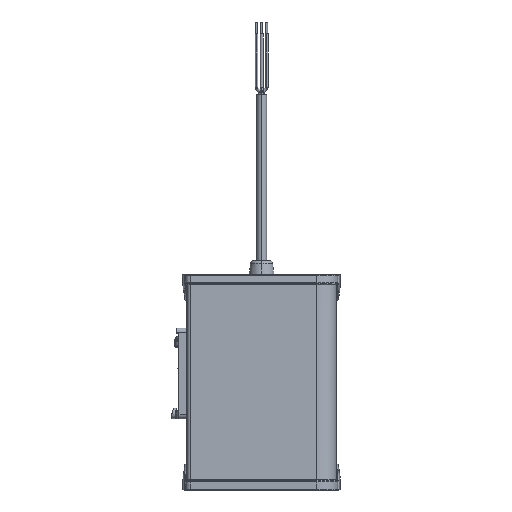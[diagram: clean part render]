
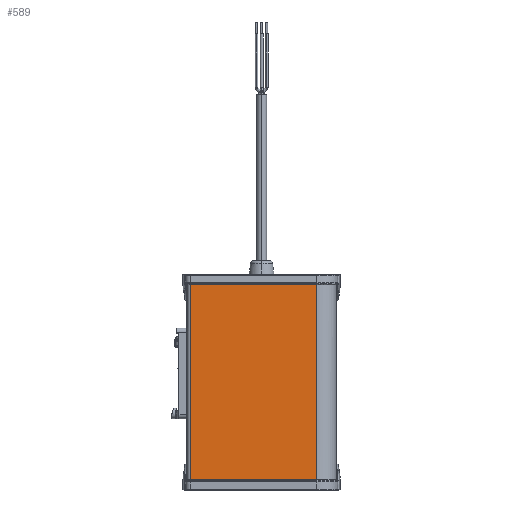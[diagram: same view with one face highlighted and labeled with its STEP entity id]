
A CAD part, left-side view. The second image highlights one B-rep face of the part: STEP entity #589.
In plain terms, the highlighted planar face has unit normal (-1, 0, 0).
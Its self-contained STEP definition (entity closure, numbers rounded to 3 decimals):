
#589=ADVANCED_FACE('',(#1731),#17625,.T.);
#1731=FACE_OUTER_BOUND('',#2899,.T.);
#2899=EDGE_LOOP('',(#5822,#5823,#5824,#5825));
#5822=ORIENTED_EDGE('',*,*,#10388,.T.);
#5823=ORIENTED_EDGE('',*,*,#10387,.T.);
#5824=ORIENTED_EDGE('',*,*,#10389,.T.);
#5825=ORIENTED_EDGE('',*,*,#10386,.T.);
#10386=EDGE_CURVE('',#16206,#16205,#12796,.T.);
#10387=EDGE_CURVE('',#16207,#16208,#12797,.T.);
#10388=EDGE_CURVE('',#16205,#16207,#12798,.T.);
#10389=EDGE_CURVE('',#16208,#16206,#12799,.T.);
#12796=B_SPLINE_CURVE_WITH_KNOTS('',1,(#34736,#34737),.UNSPECIFIED.,.F.,
 .F.,(2,2),(0.,100.),.UNSPECIFIED.);
#12797=B_SPLINE_CURVE_WITH_KNOTS('',1,(#34738,#34739),.UNSPECIFIED.,.F.,
 .F.,(2,2),(-100.,0.),.UNSPECIFIED.);
#12798=B_SPLINE_CURVE_WITH_KNOTS('',1,(#34740,#34741),.UNSPECIFIED.,.F.,
 .F.,(2,2),(-63.,0.),.UNSPECIFIED.);
#12799=B_SPLINE_CURVE_WITH_KNOTS('',1,(#34742,#34743),.UNSPECIFIED.,.F.,
 .F.,(2,2),(0.,63.),.UNSPECIFIED.);
#16205=VERTEX_POINT('',#34518);
#16206=VERTEX_POINT('',#34519);
#16207=VERTEX_POINT('',#34520);
#16208=VERTEX_POINT('',#34521);
#17625=PLANE('',#19217);
#19217=AXIS2_PLACEMENT_3D('',#34219,#19420,$);
#19420=DIRECTION('',(-1.,0.,0.));
#34219=CARTESIAN_POINT('',(-229.984,-33.808,10.));
#34518=CARTESIAN_POINT('',(-229.984,-27.508,0.));
#34519=CARTESIAN_POINT('',(-229.984,-27.508,-100.));
#34520=CARTESIAN_POINT('',(-229.984,35.492,0.));
#34521=CARTESIAN_POINT('',(-229.984,35.492,-100.));
#34736=CARTESIAN_POINT('',(-229.984,-27.508,-100.));
#34737=CARTESIAN_POINT('',(-229.984,-27.508,0.));
#34738=CARTESIAN_POINT('',(-229.984,35.492,0.));
#34739=CARTESIAN_POINT('',(-229.984,35.492,-100.));
#34740=CARTESIAN_POINT('',(-229.984,-27.508,0.));
#34741=CARTESIAN_POINT('',(-229.984,35.492,0.));
#34742=CARTESIAN_POINT('',(-229.984,35.492,-100.));
#34743=CARTESIAN_POINT('',(-229.984,-27.508,-100.));
